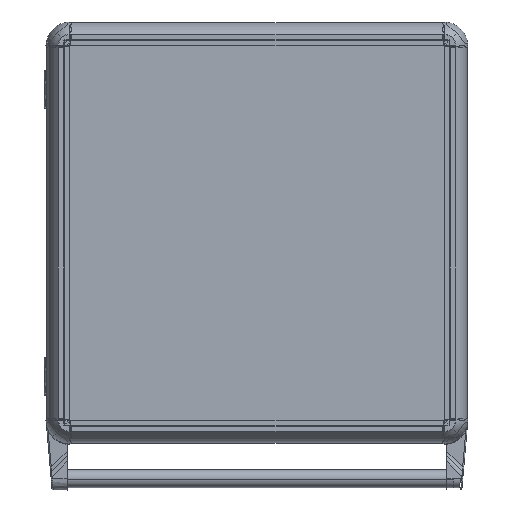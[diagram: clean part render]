
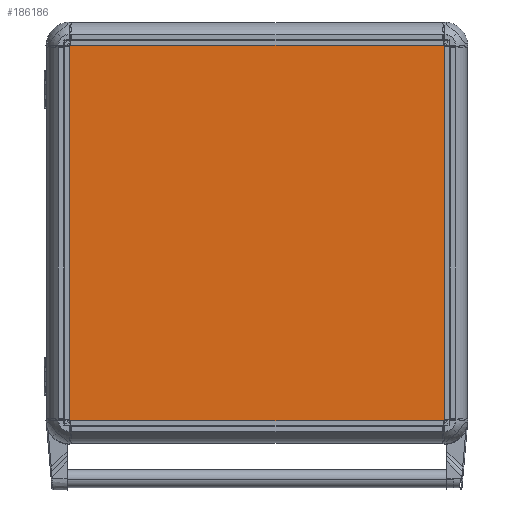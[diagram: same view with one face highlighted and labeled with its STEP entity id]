
A CAD part, top view. The second image highlights one B-rep face of the part: STEP entity #186186.
In plain terms, the highlighted planar face has unit normal (0, 0, 1).
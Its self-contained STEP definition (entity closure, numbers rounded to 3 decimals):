
#2193 = CARTESIAN_POINT ( 'NONE',  ( 200., 200., 2. ) ) ;
#9439 = FACE_OUTER_BOUND ( 'NONE', #69054, .T. ) ;
#11298 = DIRECTION ( 'NONE',  ( 0., -1., 0. ) ) ;
#15051 = LINE ( 'NONE', #96443, #213299 ) ;
#19918 = CARTESIAN_POINT ( 'NONE',  ( -200., -200., 2. ) ) ;
#29272 = ORIENTED_EDGE ( 'NONE', *, *, #81550, .T. ) ;
#38514 = VERTEX_POINT ( 'NONE', #253839 ) ;
#39906 = VERTEX_POINT ( 'NONE', #2193 ) ;
#48301 = DIRECTION ( 'NONE',  ( 0., 0., 1. ) ) ;
#48994 = DIRECTION ( 'NONE',  ( 0., 1., 0. ) ) ;
#54062 = CARTESIAN_POINT ( 'NONE',  ( -200., 200., 2. ) ) ;
#69054 = EDGE_LOOP ( 'NONE', ( #168742, #246720, #118090, #29272 ) ) ;
#81550 = EDGE_CURVE ( 'NONE', #128566, #38514, #15051, .T. ) ;
#85618 = CARTESIAN_POINT ( 'NONE',  ( -200., 200., 2. ) ) ;
#96443 = CARTESIAN_POINT ( 'NONE',  ( -200., -200., 2. ) ) ;
#117500 = LINE ( 'NONE', #218907, #215439 ) ;
#118090 = ORIENTED_EDGE ( 'NONE', *, *, #154821, .T. ) ;
#127027 = VECTOR ( 'NONE', #48994, 1000. ) ;
#128566 = VERTEX_POINT ( 'NONE', #19918 ) ;
#130463 = CARTESIAN_POINT ( 'NONE',  ( 200., 200., 2. ) ) ;
#137928 = DIRECTION ( 'NONE',  ( 1., 0., 0. ) ) ;
#139126 = VERTEX_POINT ( 'NONE', #85618 ) ;
#154821 = EDGE_CURVE ( 'NONE', #139126, #128566, #171587, .T. ) ;
#156928 = EDGE_CURVE ( 'NONE', #39906, #139126, #117500, .T. ) ;
#168428 = PLANE ( 'NONE',  #256012 ) ;
#168742 = ORIENTED_EDGE ( 'NONE', *, *, #198595, .T. ) ;
#171587 = LINE ( 'NONE', #54062, #248456 ) ;
#186186 = ADVANCED_FACE ( 'NONE', ( #9439 ), #168428, .T. ) ;
#189064 = LINE ( 'NONE', #130463, #127027 ) ;
#192290 = CARTESIAN_POINT ( 'NONE',  ( 0., 0., 2. ) ) ;
#198595 = EDGE_CURVE ( 'NONE', #38514, #39906, #189064, .T. ) ;
#213299 = VECTOR ( 'NONE', #137928, 1000. ) ;
#213698 = DIRECTION ( 'NONE',  ( 1., 0., 0. ) ) ;
#215439 = VECTOR ( 'NONE', #241578, 1000. ) ;
#218907 = CARTESIAN_POINT ( 'NONE',  ( -200., 200., 2. ) ) ;
#241578 = DIRECTION ( 'NONE',  ( -1., 0., 0. ) ) ;
#246720 = ORIENTED_EDGE ( 'NONE', *, *, #156928, .T. ) ;
#248456 = VECTOR ( 'NONE', #11298, 1000. ) ;
#253839 = CARTESIAN_POINT ( 'NONE',  ( 200., -200., 2. ) ) ;
#256012 = AXIS2_PLACEMENT_3D ( 'NONE', #192290, #48301, #213698 ) ;
